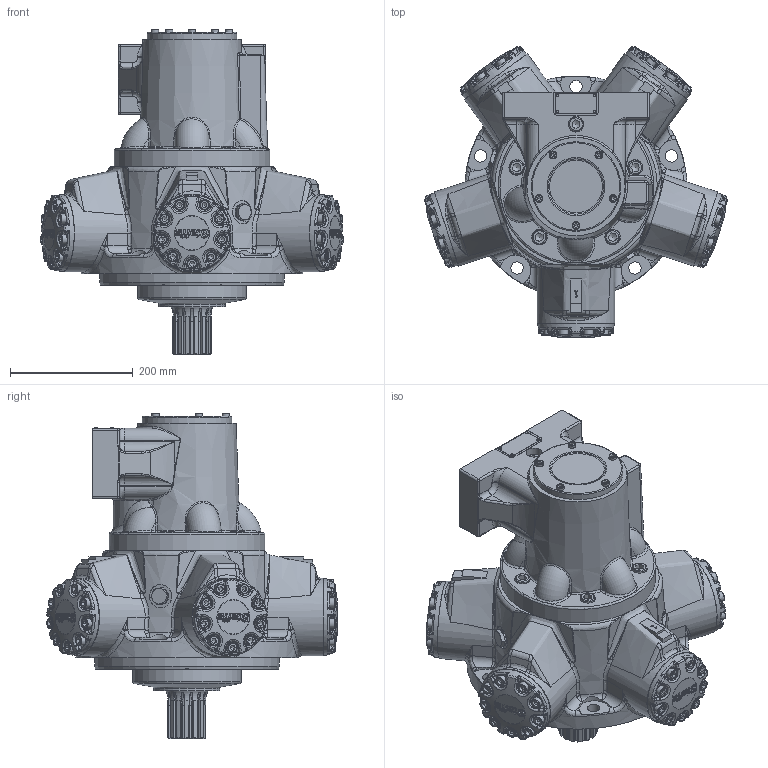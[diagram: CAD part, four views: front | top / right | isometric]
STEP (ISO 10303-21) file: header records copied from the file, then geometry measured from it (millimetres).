
FILE_DESCRIPTION(/* description */ (''),/* implementation_level */ '2;1');
FILE_NAME(/* name */ 'HMB080_S_SFM4_71.stp',/* time_stamp */ '2025-12-08T15:33:29Z',/* author */ ('ccallanga'),/* organization */ (''),/* preprocessor_version */ 'ST-DEVELOPER v20',/* originating_system */ 'Autodesk Inventor 2024',/* authorisation */ '');
FILE_SCHEMA (('AUTOMOTIVE_DESIGN { 1 0 10303 214 3 1 1 }'));
Products named in the file (1): HMB060-80 Web Assembly_Simplify_1
Bounding box: 494.24 x 473.71 x 530.82 mm (x, y, z)
Volume: 29069734.4 mm3; surface area: 890793.3 mm2
Topology: 1 solids, 1 shells, 5147 faces, 12367 edges, 7225 vertices
Faces by surface type: bspline 1830, plane 1309, cylinder 1075, torus 567, sphere 198, cone 168
Full cylindrical faces by diameter (mm): 5 x4, 8.376 x2, 11.328 x1, 11.913 x5, 12.7 x5, 13.835 x8, 16 x55, 16.5 x45, 16.51 x1, 17 x10, 20 x5, 23.825 x5, 25.4 x5, 26.92 x2, 38 x2, 38.1 x3, 69.825 x1, 73.914 x1, 88.901 x1, 107.95 x1, 127 x5, 146.05 x1, 177.8 x1, 254 x1, 301.535 x1
Entity records: 243559 total; most frequent: CARTESIAN_POINT 132982, ORIENTED_EDGE 24262, DIRECTION 18092, EDGE_CURVE 12131, VERTEX_POINT 7225, AXIS2_PLACEMENT_3D 7146, EDGE_LOOP 5396, STYLED_ITEM 5148
